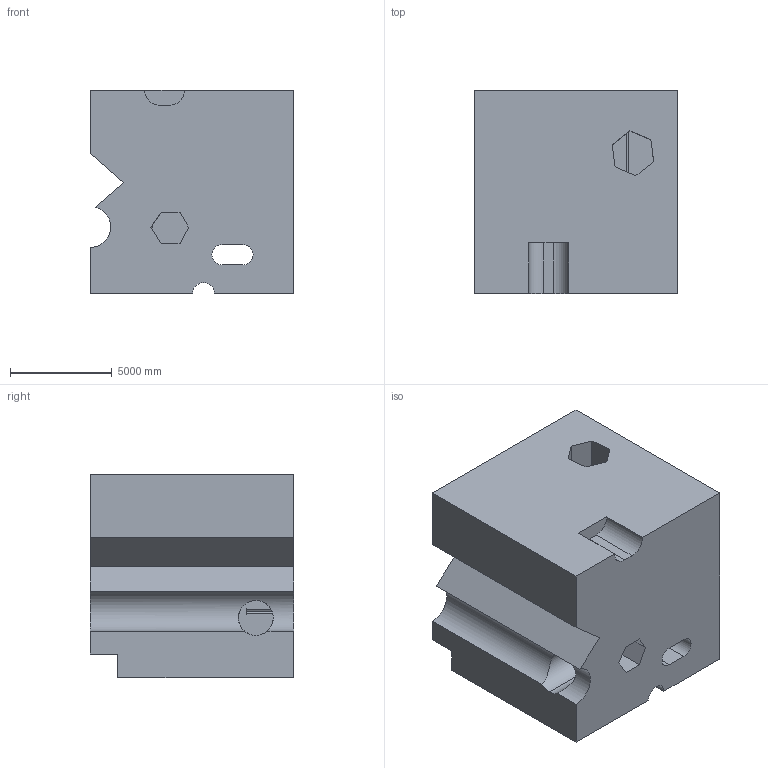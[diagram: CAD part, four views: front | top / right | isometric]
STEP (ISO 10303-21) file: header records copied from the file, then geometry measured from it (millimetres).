
FILE_DESCRIPTION (( 'STEP AP203' ), '1' );
FILE_NAME ('96.STEP', '2022-09-01T14:17:49', ( 'user' ), ( '' ), 'SwSTEP 2.0', 'SolidWorks 2021', '' );
FILE_SCHEMA (( 'CONFIG_CONTROL_DESIGN' ));
Length unit declared in the file: centimetre
Products named in the file (1): 96
Bounding box: 10000 x 10000 x 10000 mm (x, y, z)
Volume: 868679626815.6 mm3; surface area: 736288755.9 mm2
Topology: 1 solids, 1 shells, 43 faces, 132 edges, 88 vertices
Faces by surface type: plane 35, cylinder 8
Entity records: 1790 total; most frequent: CARTESIAN_POINT 516, ORIENTED_EDGE 264, DIRECTION 233, EDGE_CURVE 132, VECTOR 107, LINE 107, VERTEX_POINT 88, AXIS2_PLACEMENT_3D 63
